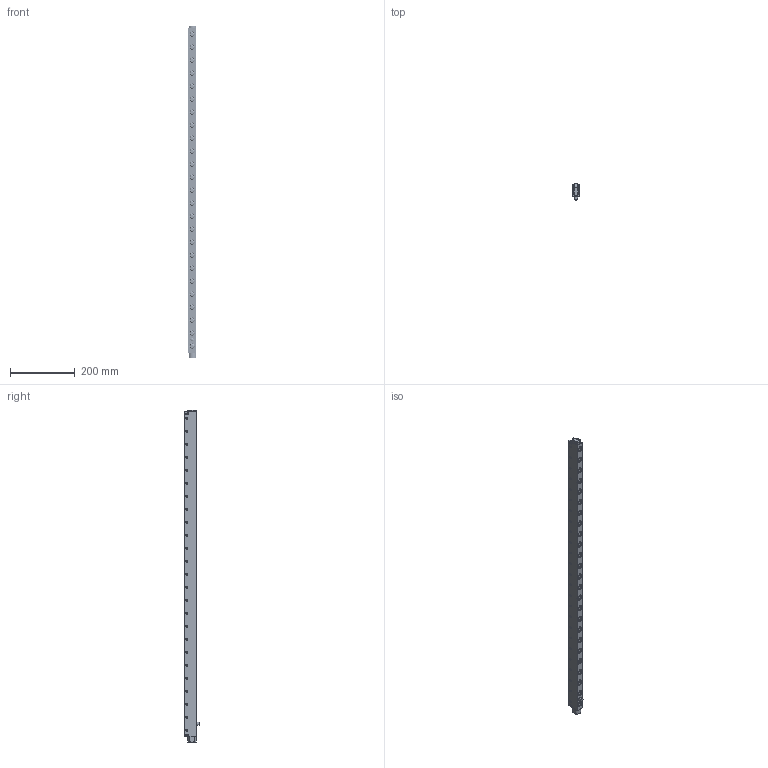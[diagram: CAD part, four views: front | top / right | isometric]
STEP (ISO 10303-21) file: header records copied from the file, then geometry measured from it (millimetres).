
FILE_DESCRIPTION(/* description */ (''),/* implementation_level */ '2;1');
FILE_NAME(/* name */ 'S:\EASCN Vault\Designs\Standard Part\DIE LIFTERS\EHR\EHR- 3D step\EHR22 - 3D step complete serie\EHR22-25.stp',/* time_stamp */ '2019-07-30T16:32:33+08:00',/* author */ ('yue.yang'),/* organization */ (''),/* preprocessor_version */ 'ST-DEVELOPER v17',/* originating_system */ 'Autodesk Inventor 2019',/* authorisation */ '');
FILE_SCHEMA (('AUTOMOTIVE_DESIGN { 1 0 10303 214 3 1 1 }'));
Products named in the file (1): EHR22-25_Shrinkwrap_1
Bounding box: 21.8 x 48.05 x 1022 mm (x, y, z)
Volume: 621436.4 mm3; surface area: 237368.1 mm2
Topology: 11 solids, 11 shells, 1450 faces, 4338 edges, 2989 vertices
Faces by surface type: cylinder 495, plane 373, cone 278, torus 253, sphere 51
Full cylindrical faces by diameter (mm): 3 x9, 3.2 x8, 4 x8, 5 x100, 6 x34, 8.566 x1, 10 x3, 11 x25, 12.5 x50, 13.4 x25, 13.8 x25, 15.95 x50, 16 x53
Entity records: 55162 total; most frequent: CARTESIAN_POINT 12409, DIRECTION 9521, ORIENTED_EDGE 8614, EDGE_CURVE 4307, AXIS2_PLACEMENT_3D 4245, VERTEX_POINT 2991, CIRCLE 2794, EDGE_LOOP 1758
